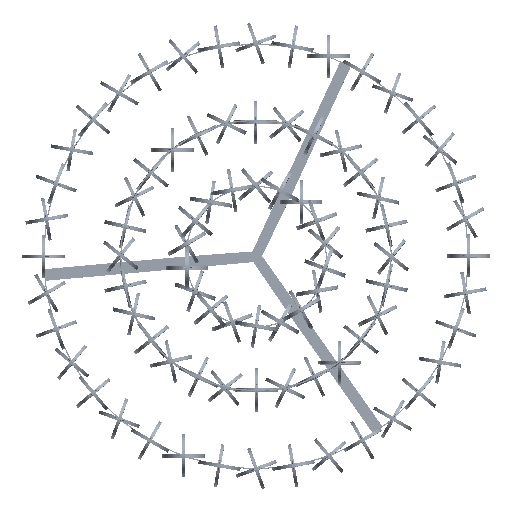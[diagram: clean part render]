
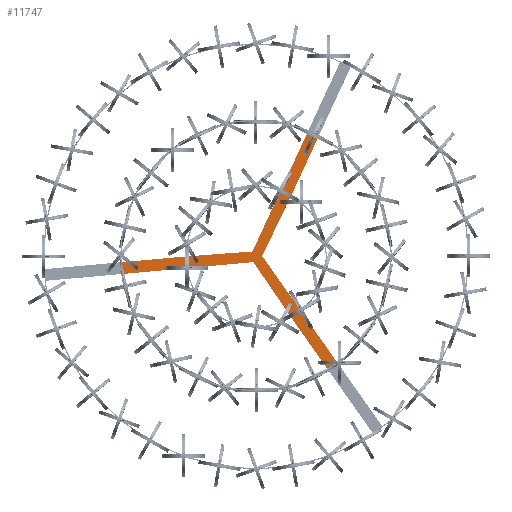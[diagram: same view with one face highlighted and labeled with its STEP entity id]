
A CAD part, top view. The second image highlights one B-rep face of the part: STEP entity #11747.
In plain terms, the highlighted planar face has unit normal (0, 0, 1).
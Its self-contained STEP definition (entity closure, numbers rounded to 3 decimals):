
#4 = CARTESIAN_POINT ( 'NONE',  ( 33.25, 57.591, 57.5 ) ) ;
#13 = DIRECTION ( 'NONE',  ( 0., 0., 1. ) ) ;
#35 = CARTESIAN_POINT ( 'NONE',  ( -126.384, -5.425, 57.5 ) ) ;
#56 = CARTESIAN_POINT ( 'NONE',  ( 58.494, 112.164, 57.5 ) ) ;
#83 = DIRECTION ( 'NONE',  ( 0.564, -0.826, 0. ) ) ;
#121 = VECTOR ( 'NONE', #2010, 1000. ) ;
#185 = AXIS2_PLACEMENT_3D ( 'NONE', #11644, #5445, #12665 ) ;
#463 = LINE ( 'NONE', #11975, #11148 ) ;
#515 = CARTESIAN_POINT ( 'NONE',  ( -2.474, -5.245, 57.5 ) ) ;
#760 = ORIENTED_EDGE ( 'NONE', *, *, #8906, .T. ) ;
#794 = VERTEX_POINT ( 'NONE', #1342 ) ;
#866 = LINE ( 'NONE', #11054, #5711 ) ;
#915 = CARTESIAN_POINT ( 'NONE',  ( 67.89, -106.739, 57.5 ) ) ;
#1342 = CARTESIAN_POINT ( 'NONE',  ( 48.529, 116.821, 57.5 ) ) ;
#1377 = EDGE_LOOP ( 'NONE', ( #3210, #9777, #11381, #5908, #6499, #6626, #13136, #3047, #760, #7921, #3808, #8619 ) ) ;
#1552 = VERTEX_POINT ( 'NONE', #7848 ) ;
#1842 = AXIS2_PLACEMENT_3D ( 'NONE', #6226, #13, #7256 ) ;
#2010 = DIRECTION ( 'NONE',  ( 0.42, 0.908, 0. ) ) ;
#2078 = CIRCLE ( 'NONE', #185, 126.5 ) ;
#2195 = VERTEX_POINT ( 'NONE', #515 ) ;
#2435 = CARTESIAN_POINT ( 'NONE',  ( 5.779, 0.48, 57.5 ) ) ;
#2569 = EDGE_CURVE ( 'NONE', #13089, #2195, #7682, .T. ) ;
#2599 = CARTESIAN_POINT ( 'NONE',  ( -66.5, 0., 57.5 ) ) ;
#2668 = AXIS2_PLACEMENT_3D ( 'NONE', #12000, #5800, #13028 ) ;
#2675 = CIRCLE ( 'NONE', #2668, 126.5 ) ;
#3047 = ORIENTED_EDGE ( 'NONE', *, *, #12778, .T. ) ;
#3210 = ORIENTED_EDGE ( 'NONE', *, *, #6313, .T. ) ;
#3425 = PLANE ( 'NONE',  #5048 ) ;
#3444 = EDGE_CURVE ( 'NONE', #11255, #794, #2675, .T. ) ;
#3519 = DIRECTION ( 'NONE',  ( 0., 0., 1. ) ) ;
#3535 = VECTOR ( 'NONE', #10858, 1000. ) ;
#3791 = CIRCLE ( 'NONE', #1842, 126.5 ) ;
#3808 = ORIENTED_EDGE ( 'NONE', *, *, #9075, .T. ) ;
#3823 = CARTESIAN_POINT ( 'NONE',  ( 33.25, -57.591, 57.5 ) ) ;
#3838 = DIRECTION ( 'NONE',  ( 0.576, -0.817, 0. ) ) ;
#4021 = CARTESIAN_POINT ( 'NONE',  ( -65.59, -10.962, 57.5 ) ) ;
#4073 = CARTESIAN_POINT ( 'NONE',  ( 33.25, 57.591, 57.5 ) ) ;
#4177 = VERTEX_POINT ( 'NONE', #2435 ) ;
#4286 = CARTESIAN_POINT ( 'NONE',  ( -66.5, 0., 57.5 ) ) ;
#4598 = VERTEX_POINT ( 'NONE', #4286 ) ;
#4648 = CARTESIAN_POINT ( 'NONE',  ( -125.435, -16.384, 57.5 ) ) ;
#5048 = AXIS2_PLACEMENT_3D ( 'NONE', #9700, #3519, #10740 ) ;
#5255 = DIRECTION ( 'NONE',  ( 0.433, 0.901, 0. ) ) ;
#5445 = DIRECTION ( 'NONE',  ( 0., 0., 1. ) ) ;
#5711 = VECTOR ( 'NONE', #3838, 1000. ) ;
#5730 = VERTEX_POINT ( 'NONE', #5816 ) ;
#5776 = DIRECTION ( 'NONE',  ( -0.997, -0.075, 0. ) ) ;
#5800 = DIRECTION ( 'NONE',  ( 0., 0., 1. ) ) ;
#5816 = CARTESIAN_POINT ( 'NONE',  ( 33.25, 57.591, 57.5 ) ) ;
#5908 = ORIENTED_EDGE ( 'NONE', *, *, #11937, .T. ) ;
#6093 = DIRECTION ( 'NONE',  ( 0.996, 0.09, 0. ) ) ;
#6226 = CARTESIAN_POINT ( 'NONE',  ( 0., 0., 57.5 ) ) ;
#6313 = EDGE_CURVE ( 'NONE', #5730, #11255, #10815, .T. ) ;
#6434 = VECTOR ( 'NONE', #10845, 1000. ) ;
#6499 = ORIENTED_EDGE ( 'NONE', *, *, #12533, .T. ) ;
#6626 = ORIENTED_EDGE ( 'NONE', *, *, #11246, .T. ) ;
#6780 = CARTESIAN_POINT ( 'NONE',  ( 76.906, -100.438, 57.5 ) ) ;
#7245 = LINE ( 'NONE', #2599, #3535 ) ;
#7256 = DIRECTION ( 'NONE',  ( 1., 0., 0. ) ) ;
#7258 = FACE_OUTER_BOUND ( 'NONE', #1377, .T. ) ;
#7318 = CARTESIAN_POINT ( 'NONE',  ( 33.25, -57.591, 57.5 ) ) ;
#7501 = VERTEX_POINT ( 'NONE', #915 ) ;
#7682 = LINE ( 'NONE', #4021, #9800 ) ;
#7848 = CARTESIAN_POINT ( 'NONE',  ( -3.305, 4.765, 57.5 ) ) ;
#7921 = ORIENTED_EDGE ( 'NONE', *, *, #11669, .T. ) ;
#8041 = LINE ( 'NONE', #7318, #13229 ) ;
#8179 = DIRECTION ( 'NONE',  ( -0.576, 0.817, 0. ) ) ;
#8619 = ORIENTED_EDGE ( 'NONE', *, *, #12288, .T. ) ;
#8787 = VECTOR ( 'NONE', #8179, 1000. ) ;
#8906 = EDGE_CURVE ( 'NONE', #9532, #7501, #866, .T. ) ;
#9075 = EDGE_CURVE ( 'NONE', #10964, #4177, #11540, .T. ) ;
#9532 = VERTEX_POINT ( 'NONE', #3823 ) ;
#9700 = CARTESIAN_POINT ( 'NONE',  ( 0., 0., 57.5 ) ) ;
#9777 = ORIENTED_EDGE ( 'NONE', *, *, #3444, .T. ) ;
#9800 = VECTOR ( 'NONE', #6093, 1000. ) ;
#9810 = CARTESIAN_POINT ( 'NONE',  ( 23.301, 62.284, 57.5 ) ) ;
#10230 = CARTESIAN_POINT ( 'NONE',  ( 42.289, -51.322, 57.5 ) ) ;
#10325 = VECTOR ( 'NONE', #5255, 1000. ) ;
#10740 = DIRECTION ( 'NONE',  ( 1., 0., 0. ) ) ;
#10815 = LINE ( 'NONE', #4073, #121 ) ;
#10845 = DIRECTION ( 'NONE',  ( -0.42, -0.908, 0. ) ) ;
#10858 = DIRECTION ( 'NONE',  ( -0.996, -0.09, 0. ) ) ;
#10964 = VERTEX_POINT ( 'NONE', #6780 ) ;
#11054 = CARTESIAN_POINT ( 'NONE',  ( 33.25, -57.591, 57.5 ) ) ;
#11148 = VECTOR ( 'NONE', #5776, 1000. ) ;
#11246 = EDGE_CURVE ( 'NONE', #12732, #13089, #3791, .T. ) ;
#11255 = VERTEX_POINT ( 'NONE', #56 ) ;
#11381 = ORIENTED_EDGE ( 'NONE', *, *, #13071, .T. ) ;
#11540 = LINE ( 'NONE', #10230, #8787 ) ;
#11644 = CARTESIAN_POINT ( 'NONE',  ( 0., 0., 57.5 ) ) ;
#11669 = EDGE_CURVE ( 'NONE', #7501, #10964, #2078, .T. ) ;
#11747 = ADVANCED_FACE ( 'NONE', ( #7258 ), #3425, .T. ) ;
#11937 = EDGE_CURVE ( 'NONE', #1552, #4598, #463, .T. ) ;
#11946 = LINE ( 'NONE', #9810, #6434 ) ;
#11975 = CARTESIAN_POINT ( 'NONE',  ( -66.5, 0., 57.5 ) ) ;
#12000 = CARTESIAN_POINT ( 'NONE',  ( 0., 0., 57.5 ) ) ;
#12288 = EDGE_CURVE ( 'NONE', #4177, #5730, #13083, .T. ) ;
#12533 = EDGE_CURVE ( 'NONE', #4598, #12732, #7245, .T. ) ;
#12665 = DIRECTION ( 'NONE',  ( 1., 0., 0. ) ) ;
#12732 = VERTEX_POINT ( 'NONE', #35 ) ;
#12778 = EDGE_CURVE ( 'NONE', #2195, #9532, #8041, .T. ) ;
#13028 = DIRECTION ( 'NONE',  ( 1., 0., 0. ) ) ;
#13071 = EDGE_CURVE ( 'NONE', #794, #1552, #11946, .T. ) ;
#13083 = LINE ( 'NONE', #4, #10325 ) ;
#13089 = VERTEX_POINT ( 'NONE', #4648 ) ;
#13136 = ORIENTED_EDGE ( 'NONE', *, *, #2569, .T. ) ;
#13229 = VECTOR ( 'NONE', #83, 1000. ) ;
